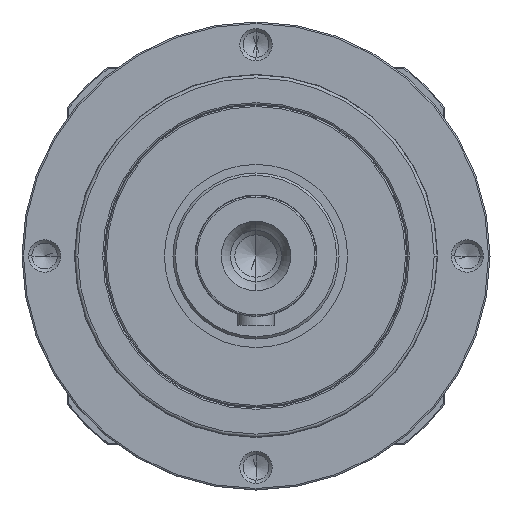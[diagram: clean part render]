
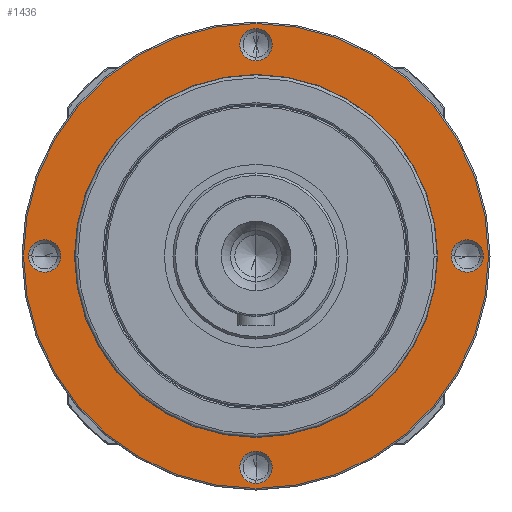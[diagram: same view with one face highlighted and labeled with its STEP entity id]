
A CAD part, left-side view. The second image highlights one B-rep face of the part: STEP entity #1436.
In plain terms, the highlighted planar face has unit normal (-1, 0, 0).
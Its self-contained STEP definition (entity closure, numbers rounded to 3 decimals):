
#252=CARTESIAN_POINT('',(9.5,70.,0.));
#253=DIRECTION('',(1.,0.,0.));
#254=DIRECTION('',(0.,-1.,0.));
#255=AXIS2_PLACEMENT_3D('',#252,#253,#254);
#257=CARTESIAN_POINT('',(9.5,70.,0.));
#258=DIRECTION('',(1.,0.,0.));
#259=DIRECTION('',(0.,1.,0.));
#260=AXIS2_PLACEMENT_3D('',#257,#258,#259);
#262=CARTESIAN_POINT('',(9.5,0.,-70.));
#263=DIRECTION('',(1.,0.,0.));
#264=DIRECTION('',(0.,0.,-1.));
#265=AXIS2_PLACEMENT_3D('',#262,#263,#264);
#267=CARTESIAN_POINT('',(9.5,0.,-70.));
#268=DIRECTION('',(1.,0.,0.));
#269=DIRECTION('',(0.,0.,1.));
#270=AXIS2_PLACEMENT_3D('',#267,#268,#269);
#272=CARTESIAN_POINT('',(9.5,-70.,0.));
#273=DIRECTION('',(1.,0.,0.));
#274=DIRECTION('',(0.,-1.,0.));
#275=AXIS2_PLACEMENT_3D('',#272,#273,#274);
#277=CARTESIAN_POINT('',(9.5,-70.,0.));
#278=DIRECTION('',(1.,0.,0.));
#279=DIRECTION('',(0.,1.,0.));
#280=AXIS2_PLACEMENT_3D('',#277,#278,#279);
#282=CARTESIAN_POINT('',(9.5,0.,70.));
#283=DIRECTION('',(1.,0.,0.));
#284=DIRECTION('',(0.,0.,1.));
#285=AXIS2_PLACEMENT_3D('',#282,#283,#284);
#287=CARTESIAN_POINT('',(9.5,0.,70.));
#288=DIRECTION('',(1.,0.,0.));
#289=DIRECTION('',(0.,0.,-1.));
#290=AXIS2_PLACEMENT_3D('',#287,#288,#289);
#292=CARTESIAN_POINT('',(9.5,0.,0.));
#293=DIRECTION('',(1.,0.,0.));
#294=DIRECTION('',(0.,1.,0.));
#295=AXIS2_PLACEMENT_3D('',#292,#293,#294);
#297=CARTESIAN_POINT('',(9.5,0.,0.));
#298=DIRECTION('',(1.,0.,0.));
#299=DIRECTION('',(0.,-1.,0.));
#300=AXIS2_PLACEMENT_3D('',#297,#298,#299);
#302=CARTESIAN_POINT('',(9.5,0.,0.));
#303=DIRECTION('',(-1.,0.,0.));
#304=DIRECTION('',(0.,1.,0.));
#305=AXIS2_PLACEMENT_3D('',#302,#303,#304);
#307=CARTESIAN_POINT('',(9.5,0.,0.));
#308=DIRECTION('',(-1.,0.,0.));
#309=DIRECTION('',(0.,-1.,0.));
#310=AXIS2_PLACEMENT_3D('',#307,#308,#309);
#901=CARTESIAN_POINT('',(9.5,64.65,0.));
#902=CARTESIAN_POINT('',(9.5,75.35,0.));
#903=VERTEX_POINT('',#901);
#904=VERTEX_POINT('',#902);
#905=CARTESIAN_POINT('',(9.5,0.,-75.35));
#906=CARTESIAN_POINT('',(9.5,0.,-64.65));
#907=VERTEX_POINT('',#905);
#908=VERTEX_POINT('',#906);
#909=CARTESIAN_POINT('',(9.5,-75.35,0.));
#910=CARTESIAN_POINT('',(9.5,-64.65,0.));
#911=VERTEX_POINT('',#909);
#912=VERTEX_POINT('',#910);
#913=CARTESIAN_POINT('',(9.5,0.,
75.35));
#914=CARTESIAN_POINT('',(9.5,0.,
64.65));
#915=VERTEX_POINT('',#913);
#916=VERTEX_POINT('',#914);
#945=CARTESIAN_POINT('',(9.5,77.,0.));
#946=CARTESIAN_POINT('',(9.5,-77.,0.));
#947=VERTEX_POINT('',#945);
#948=VERTEX_POINT('',#946);
#965=CARTESIAN_POINT('',(9.5,60.1,0.));
#966=CARTESIAN_POINT('',(9.5,-60.1,0.));
#967=VERTEX_POINT('',#965);
#968=VERTEX_POINT('',#966);
#1396=CARTESIAN_POINT('',(9.5,0.,0.));
#1397=DIRECTION('',(-1.,0.,0.));
#1398=DIRECTION('',(0.,1.,0.));
#1399=AXIS2_PLACEMENT_3D('',#1396,#1397,#1398);
#1400=PLANE('',#1399);
#1402=ORIENTED_EDGE('',*,*,#1401,.T.);
#1404=ORIENTED_EDGE('',*,*,#1403,.T.);
#1405=EDGE_LOOP('',(#1402,#1404));
#1406=FACE_OUTER_BOUND('',#1405,.F.);
#1408=ORIENTED_EDGE('',*,*,#1407,.F.);
#1410=ORIENTED_EDGE('',*,*,#1409,.F.);
#1411=EDGE_LOOP('',(#1408,#1410));
#1412=FACE_BOUND('',#1411,.F.);
#1414=ORIENTED_EDGE('',*,*,#1413,.F.);
#1416=ORIENTED_EDGE('',*,*,#1415,.F.);
#1417=EDGE_LOOP('',(#1414,#1416));
#1418=FACE_BOUND('',#1417,.F.);
#1420=ORIENTED_EDGE('',*,*,#1419,.F.);
#1422=ORIENTED_EDGE('',*,*,#1421,.F.);
#1423=EDGE_LOOP('',(#1420,#1422));
#1424=FACE_BOUND('',#1423,.F.);
#1426=ORIENTED_EDGE('',*,*,#1425,.F.);
#1428=ORIENTED_EDGE('',*,*,#1427,.F.);
#1429=EDGE_LOOP('',(#1426,#1428));
#1430=FACE_BOUND('',#1429,.F.);
#1432=ORIENTED_EDGE('',*,*,#1431,.T.);
#1433=ORIENTED_EDGE('',*,*,#1386,.T.);
#1434=EDGE_LOOP('',(#1432,#1433));
#1435=FACE_BOUND('',#1434,.F.);
#1436=ADVANCED_FACE('',(#1406,#1412,#1418,#1424,#1430,#1435),#1400,.T.);
#256=CIRCLE('',#255,5.35);
#261=CIRCLE('',#260,5.35);
#266=CIRCLE('',#265,5.35);
#271=CIRCLE('',#270,5.35);
#276=CIRCLE('',#275,5.35);
#281=CIRCLE('',#280,5.35);
#286=CIRCLE('',#285,5.35);
#291=CIRCLE('',#290,5.35);
#296=CIRCLE('',#295,77.);
#301=CIRCLE('',#300,77.);
#306=CIRCLE('',#305,60.1);
#311=CIRCLE('',#310,60.1);
#1386=EDGE_CURVE('',#968,#967,#311,.T.);
#1401=EDGE_CURVE('',#947,#948,#296,.T.);
#1403=EDGE_CURVE('',#948,#947,#301,.T.);
#1407=EDGE_CURVE('',#903,#904,#256,.T.);
#1409=EDGE_CURVE('',#904,#903,#261,.T.);
#1413=EDGE_CURVE('',#907,#908,#266,.T.);
#1415=EDGE_CURVE('',#908,#907,#271,.T.);
#1419=EDGE_CURVE('',#911,#912,#276,.T.);
#1421=EDGE_CURVE('',#912,#911,#281,.T.);
#1425=EDGE_CURVE('',#915,#916,#286,.T.);
#1427=EDGE_CURVE('',#916,#915,#291,.T.);
#1431=EDGE_CURVE('',#967,#968,#306,.T.);
